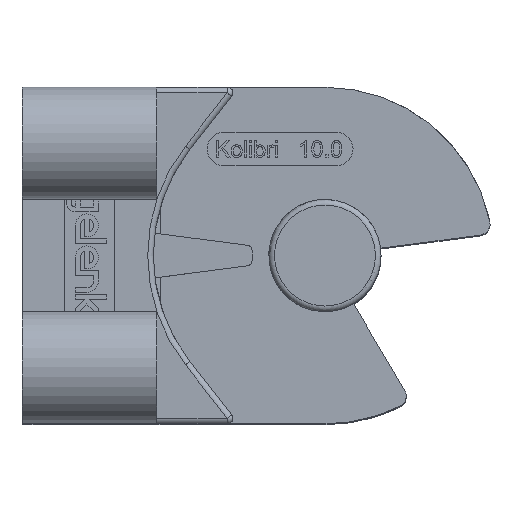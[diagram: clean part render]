
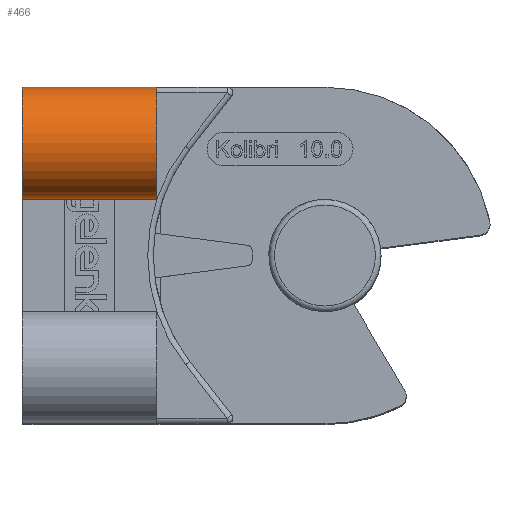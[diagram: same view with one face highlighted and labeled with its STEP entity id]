
A CAD part, top view. The second image highlights one B-rep face of the part: STEP entity #466.
In plain terms, the highlighted cylindrical face has radius 5 mm (diameter 10 mm), a partial arc.
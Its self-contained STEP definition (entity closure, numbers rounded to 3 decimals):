
#394=CARTESIAN_POINT('',(2.5,5.,9.));
#395=VERTEX_POINT('',#394);
#402=CARTESIAN_POINT('',(-9.5,5.,9.));
#403=VERTEX_POINT('',#402);
#404=CARTESIAN_POINT('',(-9.5,5.,9.));
#405=DIRECTION('',(1.0,0.0,0.0));
#406=VECTOR('',#405,12.0);
#407=LINE('',#404,#406);
#408=EDGE_CURVE('',#403,#395,#407,.T.);
#434=CARTESIAN_POINT('',(-9.5,10.,9.));
#435=DIRECTION('',(1.0,0.,0.0));
#436=DIRECTION('',(0.0,1.0,0.0));
#437=AXIS2_PLACEMENT_3D('',#434,#435,#436);
#438=CYLINDRICAL_SURFACE('',#437,5.0);
#439=CARTESIAN_POINT('',(2.5,15.,9.));
#440=VERTEX_POINT('',#439);
#441=CARTESIAN_POINT('',(2.5,10.,9.));
#442=DIRECTION('',(-1.0,0.0,0.0));
#443=DIRECTION('',(0.0,1.0,0.0));
#444=AXIS2_PLACEMENT_3D('',#441,#442,#443);
#445=CIRCLE('',#444,5.0);
#446=EDGE_CURVE('',#395,#440,#445,.T.);
#447=ORIENTED_EDGE('',*,*,#446,.T.);
#448=CARTESIAN_POINT('',(-9.5,15.,9.));
#449=VERTEX_POINT('',#448);
#450=CARTESIAN_POINT('',(-9.5,15.,9.));
#451=DIRECTION('',(1.0,0.0,0.0));
#452=VECTOR('',#451,12.0);
#453=LINE('',#450,#452);
#454=EDGE_CURVE('',#449,#440,#453,.T.);
#455=ORIENTED_EDGE('',*,*,#454,.F.);
#456=CARTESIAN_POINT('',(-9.5,10.,9.));
#457=DIRECTION('',(1.0,0.0,0.0));
#458=DIRECTION('',(0.0,1.0,0.0));
#459=AXIS2_PLACEMENT_3D('',#456,#457,#458);
#460=CIRCLE('',#459,5.0);
#461=EDGE_CURVE('',#449,#403,#460,.T.);
#462=ORIENTED_EDGE('',*,*,#461,.T.);
#463=ORIENTED_EDGE('',*,*,#408,.T.);
#464=EDGE_LOOP('',(#447,#455,#462,#463));
#465=FACE_OUTER_BOUND('',#464,.T.);
#466=ADVANCED_FACE('',(#465),#438,.T.);
